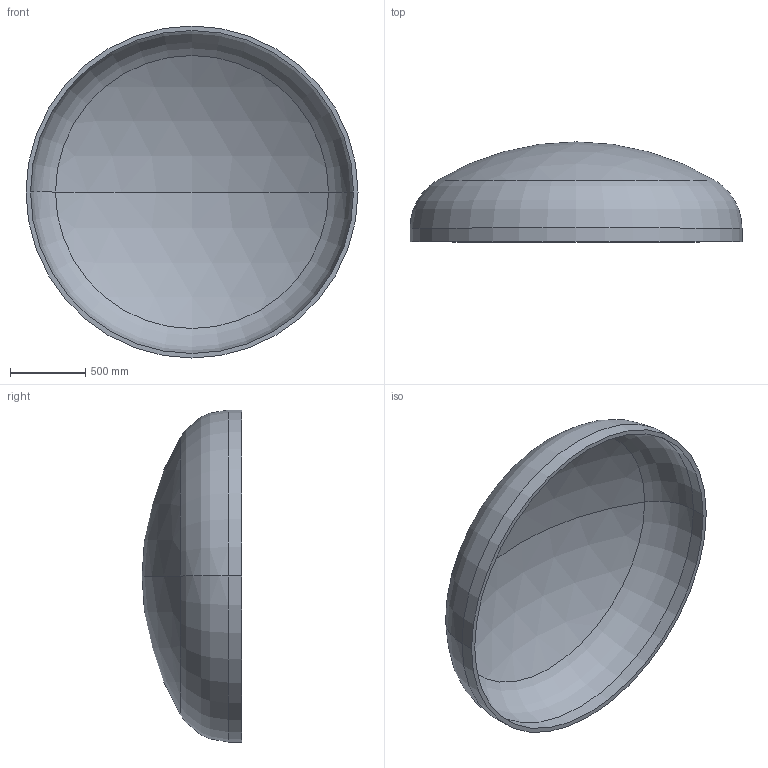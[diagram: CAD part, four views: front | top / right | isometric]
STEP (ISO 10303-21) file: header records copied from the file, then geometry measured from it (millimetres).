
FILE_DESCRIPTION (( 'STEP AP203' ), '1' );
FILE_NAME ('DIN 28013 Korbbogenform_-_Boden DIN 28013 - 2200 x 90 - I - s=30.step', '2016-07-01T14:29:52', ( '' ), ( '' ), 'SwSTEP 2.0', 'SolidWorks 2013', '' );
FILE_SCHEMA (( 'CONFIG_CONTROL_DESIGN' ));
Length unit declared in the file: millimetre
Products named in the file (1): DIN 28013 Korbbogenform_-_Boden DIN 28013 - 2200 x 90 - I - s=30
Bounding box: 2200 x 662.01 x 2200 mm (x, y, z)
Volume: 173637771.8 mm3; surface area: 11782250 mm2
Topology: 1 solids, 1 shells, 13 faces, 24 edges, 14 vertices
Faces by surface type: torus 4, cylinder 4, sphere 4, plane 1
Entity records: 407 total; most frequent: DIRECTION 72, CARTESIAN_POINT 52, ORIENTED_EDGE 48, AXIS2_PLACEMENT_3D 34, EDGE_CURVE 24, CIRCLE 20, EDGE_LOOP 14, VERTEX_POINT 14
